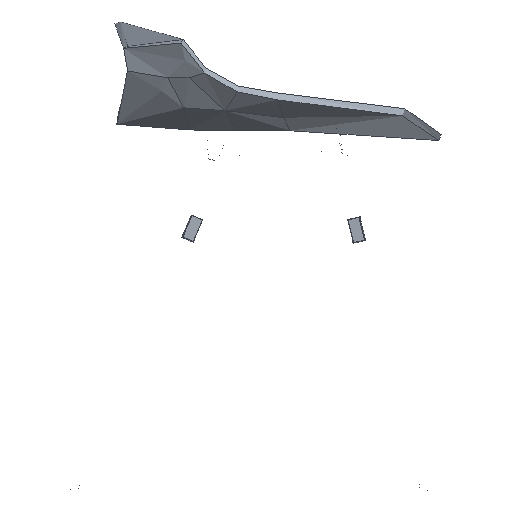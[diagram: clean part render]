
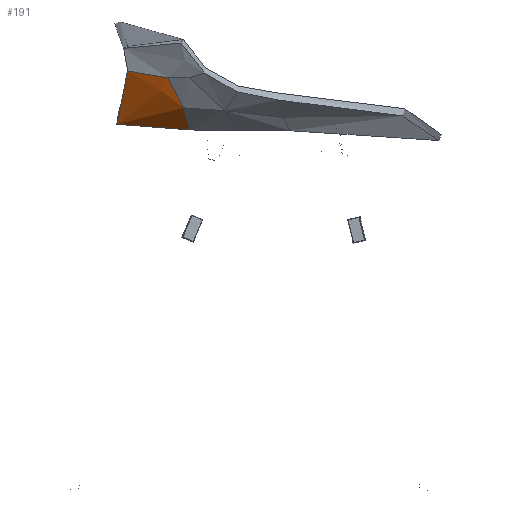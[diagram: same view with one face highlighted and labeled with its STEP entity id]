
A CAD part, left-side view. The second image highlights one B-rep face of the part: STEP entity #191.
In plain terms, the highlighted free-form (B-spline) face has degree [3, 3] with [8, 7] control points.
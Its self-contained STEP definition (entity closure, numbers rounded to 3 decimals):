
#98=B_SPLINE_SURFACE_WITH_KNOTS('',3,3,((#6458,#6459,#6460,#6461,#6462,
#6463,#6464),(#6465,#6466,#6467,#6468,#6469,#6470,#6471),(#6472,#6473,#6474,
#6475,#6476,#6477,#6478),(#6479,#6480,#6481,#6482,#6483,#6484,#6485),(#6486,
#6487,#6488,#6489,#6490,#6491,#6492),(#6493,#6494,#6495,#6496,#6497,#6498,
#6499),(#6500,#6501,#6502,#6503,#6504,#6505,#6506),(#6507,#6508,#6509,#6510,
#6511,#6512,#6513)),.UNSPECIFIED.,.F.,.F.,.F.,(4,1,3,4),(4,1,1,1,4),(-2.,
-1.,0.,1.),(-2.,-1.,0.,1.,2.),.UNSPECIFIED.);
#191=ADVANCED_FACE('',(#321),#98,.T.);
#321=FACE_OUTER_BOUND('',#451,.T.);
#451=EDGE_LOOP('',(#847,#848,#849,#850,#851));
#847=ORIENTED_EDGE('',*,*,#1288,.T.);
#848=ORIENTED_EDGE('',*,*,#1293,.F.);
#849=ORIENTED_EDGE('',*,*,#1297,.T.);
#850=ORIENTED_EDGE('',*,*,#1296,.F.);
#851=ORIENTED_EDGE('',*,*,#1289,.F.);
#1288=EDGE_CURVE('',#1839,#1849,#1692,.T.);
#1289=EDGE_CURVE('',#1839,#1840,#1693,.T.);
#1293=EDGE_CURVE('',#1853,#1849,#1697,.T.);
#1296=EDGE_CURVE('',#1840,#1846,#1700,.T.);
#1297=EDGE_CURVE('',#1853,#1846,#1701,.T.);
#1692=B_SPLINE_CURVE_WITH_KNOTS('',3,(#9297,#9298,#9299,#9300,#9301,#9302,
#9303,#9304),.UNSPECIFIED.,.F.,.F.,(4,1,3,4),(-1.,-0.667,-0.333,
0.),.UNSPECIFIED.);
#1693=B_SPLINE_CURVE_WITH_KNOTS('',3,(#9305,#9306,#9307,#9308,#9309,#9310,
#9311,#9312,#9313),.UNSPECIFIED.,.F.,.F.,(4,1,1,1,1,1,4),(-1.,-0.75,-0.5,
-0.375,-0.25,-0.125,0.),.UNSPECIFIED.);
#1697=B_SPLINE_CURVE_WITH_KNOTS('',3,(#9341,#9342,#9343,#9344,#9345,#9346,
#9347),.UNSPECIFIED.,.F.,.F.,(4,1,1,1,4),(-1.,-0.75,-0.5,-0.25,0.),
 .UNSPECIFIED.);
#1700=B_SPLINE_CURVE_WITH_KNOTS('',3,(#9366,#9367,#9368,#9369,#9370,#9371,
#9372,#9373,#9374),.UNSPECIFIED.,.F.,.F.,(4,1,1,1,1,1,4),(-1.,-0.875,-0.75,
-0.625,-0.5,-0.25,0.),.UNSPECIFIED.);
#1701=B_SPLINE_CURVE_WITH_KNOTS('',3,(#9375,#9376,#9377,#9378,#9379,#9380,
#9381,#9382),.UNSPECIFIED.,.F.,.F.,(4,3,1,4),(-1.,-0.667,-0.333,
0.),.UNSPECIFIED.);
#1839=VERTEX_POINT('',#8559);
#1840=VERTEX_POINT('',#8560);
#1846=VERTEX_POINT('',#8566);
#1849=VERTEX_POINT('',#8569);
#1853=VERTEX_POINT('',#8573);
#6458=CARTESIAN_POINT('',(-221.75,141.453,520.63));
#6459=CARTESIAN_POINT('',(-219.235,138.069,514.161));
#6460=CARTESIAN_POINT('',(-213.581,130.629,500.993));
#6461=CARTESIAN_POINT('',(-201.883,120.779,482.274));
#6462=CARTESIAN_POINT('',(-185.627,115.57,466.317));
#6463=CARTESIAN_POINT('',(-172.377,114.221,458.154));
#6464=CARTESIAN_POINT('',(-165.306,113.836,454.85));
#6465=CARTESIAN_POINT('',(-220.903,146.316,521.035));
#6466=CARTESIAN_POINT('',(-218.509,143.299,514.704));
#6467=CARTESIAN_POINT('',(-213.148,136.763,501.844));
#6468=CARTESIAN_POINT('',(-201.89,128.295,483.372));
#6469=CARTESIAN_POINT('',(-185.919,124.009,467.127));
#6470=CARTESIAN_POINT('',(-172.74,123.081,458.644));
#6471=CARTESIAN_POINT('',(-165.671,122.884,455.206));
#6472=CARTESIAN_POINT('',(-219.102,156.168,522.165));
#6473=CARTESIAN_POINT('',(-216.952,153.839,516.117));
#6474=CARTESIAN_POINT('',(-212.148,148.935,503.843));
#6475=CARTESIAN_POINT('',(-201.722,142.886,485.778));
#6476=CARTESIAN_POINT('',(-186.365,140.184,468.941));
#6477=CARTESIAN_POINT('',(-173.38,140.04,459.812));
#6478=CARTESIAN_POINT('',(-166.336,140.24,456.09));
#6479=CARTESIAN_POINT('',(-217.198,165.405,523.669));
#6480=CARTESIAN_POINT('',(-215.278,163.642,517.901));
#6481=CARTESIAN_POINT('',(-210.961,160.034,506.143));
#6482=CARTESIAN_POINT('',(-201.256,155.928,488.37));
#6483=CARTESIAN_POINT('',(-186.523,154.684,470.987));
#6484=CARTESIAN_POINT('',(-173.804,155.416,461.251));
#6485=CARTESIAN_POINT('',(-166.833,156.087,457.245));
#6486=CARTESIAN_POINT('',(-216.246,169.653,524.449));
#6487=CARTESIAN_POINT('',(-214.435,168.137,518.814));
#6488=CARTESIAN_POINT('',(-210.342,165.095,507.295));
#6489=CARTESIAN_POINT('',(-200.965,161.895,489.652));
#6490=CARTESIAN_POINT('',(-186.527,161.448,472.028));
#6491=CARTESIAN_POINT('',(-173.951,162.692,462.013));
#6492=CARTESIAN_POINT('',(-167.031,163.626,457.871));
#6493=CARTESIAN_POINT('',(-214.343,178.15,526.009));
#6494=CARTESIAN_POINT('',(-212.749,177.126,520.641));
#6495=CARTESIAN_POINT('',(-209.104,175.216,509.599));
#6496=CARTESIAN_POINT('',(-200.384,173.829,492.218));
#6497=CARTESIAN_POINT('',(-186.533,174.977,474.11));
#6498=CARTESIAN_POINT('',(-174.244,177.244,463.538));
#6499=CARTESIAN_POINT('',(-167.427,178.705,459.122));
#6500=CARTESIAN_POINT('',(-212.443,185.165,527.683));
#6501=CARTESIAN_POINT('',(-211.039,184.484,522.553));
#6502=CARTESIAN_POINT('',(-207.763,183.382,511.911));
#6503=CARTESIAN_POINT('',(-199.574,183.546,494.731));
#6504=CARTESIAN_POINT('',(-186.238,186.566,476.266));
#6505=CARTESIAN_POINT('',(-174.278,190.149,465.232));
#6506=CARTESIAN_POINT('',(-167.621,192.249,460.567));
#6507=CARTESIAN_POINT('',(-210.543,192.181,529.356));
#6508=CARTESIAN_POINT('',(-209.328,191.843,524.465));
#6509=CARTESIAN_POINT('',(-206.421,191.548,514.223));
#6510=CARTESIAN_POINT('',(-198.764,193.263,497.245));
#6511=CARTESIAN_POINT('',(-185.943,198.155,478.422));
#6512=CARTESIAN_POINT('',(-174.312,203.053,466.927));
#6513=CARTESIAN_POINT('',(-167.815,205.792,462.013));
#8559=CARTESIAN_POINT('',(-221.75,141.453,520.63));
#8560=CARTESIAN_POINT('',(-201.123,121.553,482.734));
#8566=CARTESIAN_POINT('',(-165.306,113.836,454.85));
#8569=CARTESIAN_POINT('',(-210.543,192.181,529.356));
#8573=CARTESIAN_POINT('',(-167.815,205.792,462.013));
#9297=CARTESIAN_POINT('',(-221.75,141.453,520.63));
#9298=CARTESIAN_POINT('',(-220.903,146.316,521.035));
#9299=CARTESIAN_POINT('',(-219.102,156.168,522.165));
#9300=CARTESIAN_POINT('',(-217.198,165.405,523.669));
#9301=CARTESIAN_POINT('',(-216.246,169.653,524.449));
#9302=CARTESIAN_POINT('',(-214.343,178.15,526.009));
#9303=CARTESIAN_POINT('',(-212.443,185.165,527.683));
#9304=CARTESIAN_POINT('',(-210.543,192.181,529.356));
#9305=CARTESIAN_POINT('',(-221.75,141.453,520.63));
#9306=CARTESIAN_POINT('',(-220.493,139.761,517.396));
#9307=CARTESIAN_POINT('',(-217.822,136.209,510.869));
#9308=CARTESIAN_POINT('',(-213.953,131.695,502.747));
#9309=CARTESIAN_POINT('',(-210.456,128.248,496.378));
#9310=CARTESIAN_POINT('',(-207.611,125.797,491.693));
#9311=CARTESIAN_POINT('',(-204.523,123.532,487.126));
#9312=CARTESIAN_POINT('',(-202.288,122.18,484.179));
#9313=CARTESIAN_POINT('',(-201.123,121.553,482.734));
#9341=CARTESIAN_POINT('',(-167.815,205.792,462.013));
#9342=CARTESIAN_POINT('',(-174.312,203.053,466.927));
#9343=CARTESIAN_POINT('',(-185.943,198.155,478.422));
#9344=CARTESIAN_POINT('',(-198.764,193.263,497.245));
#9345=CARTESIAN_POINT('',(-206.421,191.548,514.223));
#9346=CARTESIAN_POINT('',(-209.328,191.843,524.465));
#9347=CARTESIAN_POINT('',(-210.543,192.181,529.356));
#9366=CARTESIAN_POINT('',(-201.123,121.553,482.734));
#9367=CARTESIAN_POINT('',(-199.959,120.925,481.29));
#9368=CARTESIAN_POINT('',(-197.534,119.767,478.457));
#9369=CARTESIAN_POINT('',(-193.627,118.297,474.397));
#9370=CARTESIAN_POINT('',(-189.465,117.071,470.538));
#9371=CARTESIAN_POINT('',(-183.594,115.733,465.684));
#9372=CARTESIAN_POINT('',(-175.69,114.559,460.195));
#9373=CARTESIAN_POINT('',(-168.841,114.029,456.502));
#9374=CARTESIAN_POINT('',(-165.306,113.836,454.85));
#9375=CARTESIAN_POINT('',(-167.815,205.792,462.013));
#9376=CARTESIAN_POINT('',(-167.621,192.249,460.567));
#9377=CARTESIAN_POINT('',(-167.427,178.705,459.122));
#9378=CARTESIAN_POINT('',(-167.031,163.626,457.871));
#9379=CARTESIAN_POINT('',(-166.833,156.087,457.245));
#9380=CARTESIAN_POINT('',(-166.336,140.24,456.09));
#9381=CARTESIAN_POINT('',(-165.671,122.884,455.206));
#9382=CARTESIAN_POINT('',(-165.306,113.836,454.85));
